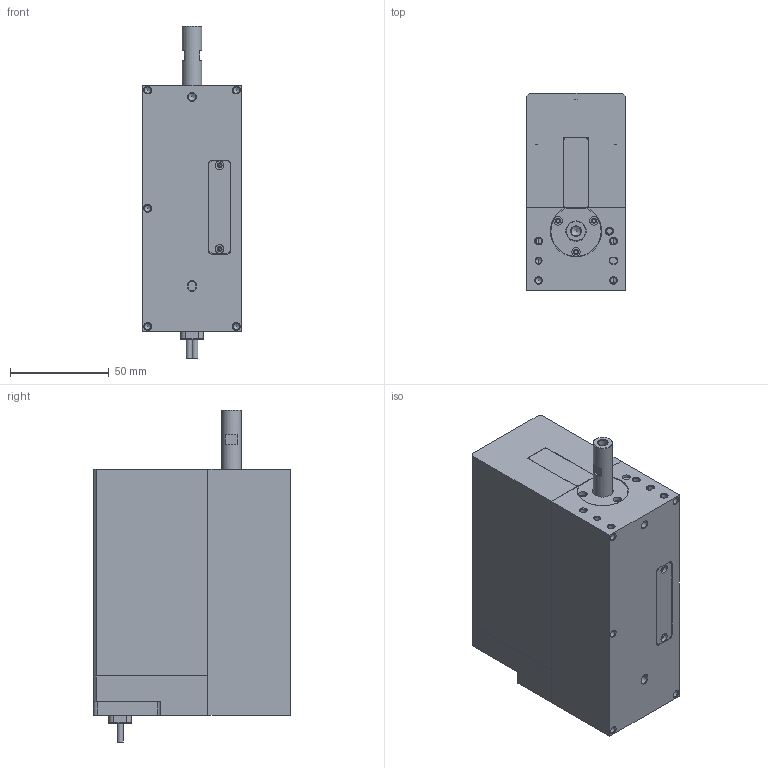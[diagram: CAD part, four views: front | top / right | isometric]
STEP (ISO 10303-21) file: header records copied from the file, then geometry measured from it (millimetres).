
FILE_DESCRIPTION((''),'2;1');
FILE_NAME('E:\SMAC-CAD\LCA\LCA 50\LCA 50-050\ASSY\LCA 50-050-5 EXPORT.stp','2011-12-12T08:18:57',('mark'),(''),'Autodesk Inventor 2008','Autodesk Inventor 2008','');
FILE_SCHEMA(('AUTOMOTIVE_DESIGN { 1 0 10303 214 1 1 1 1 }'));
Length unit declared in the file: millimetre
Products named in the file (11): LCA 50-050-5 EXPORT; BODY 050 V1; MAG HSG 050; CONN. COVER 050; C-POLE 50 V3; BUSHING RETAINER; FRELON BUSHING; FEMALE SHAFT V3 50; 22811-03_A; CABLE-G; STOPPER
Assembly tree (10 placements, depth 2):
  LCA 50-050-5 EXPORT
    BODY 050 V1
    MAG HSG 050
    CONN. COVER 050
    C-POLE 50 V3
    BUSHING RETAINER
    FRELON BUSHING
    FEMALE SHAFT V3 50
    22811-03_A
    CABLE-G
    STOPPER
Bounding box: 50 x 100 x 168.5 mm (x, y, z)
Volume: 304169.2 mm3; surface area: 115937.1 mm2
Topology: 10 solids, 10 shells, 410 faces, 1084 edges, 708 vertices
Faces by surface type: plane 187, bspline 135, cylinder 72, cone 8, torus 8
Full cylindrical faces by diameter (mm): 2.9 x1, 3 x3, 4.5 x1, 10 x2, 10.5 x1, 12.5 x2, 16.5 x1
Entity records: 13501 total; most frequent: CARTESIAN_POINT 4134, DIRECTION 1797, ORIENTED_EDGE 1754, EDGE_CURVE 877, VERTEX_POINT 632, AXIS2_PLACEMENT_3D 629, EDGE_LOOP 620, VECTOR 539
